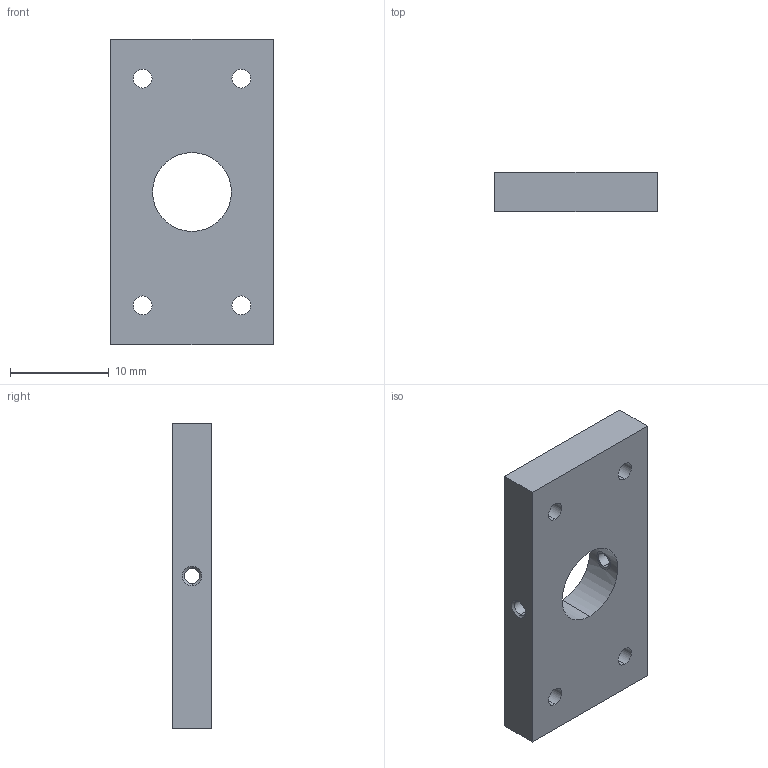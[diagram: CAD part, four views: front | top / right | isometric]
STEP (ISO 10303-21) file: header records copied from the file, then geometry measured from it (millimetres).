
FILE_DESCRIPTION(/* description */ ('(C) Elphel, Inc. 2013. Licensed under CERN OHL v.1.1 or later, see http://ohwr.org/cernohl'),/* implementation_level */ '2;1');
FILE_NAME(/* name */ '0353-23-11.stp',/* time_stamp */ '2013-04-05T16:13:30-06:00',/* author */ (''),/* organization */ ('Elphel, Inc'),/* preprocessor_version */ 'ST-DEVELOPER v14',/* originating_system */ 'VariCAD 2013-1.03; kernel version (20121105)',/* authorisation */ '');
FILE_SCHEMA (('CONFIG_CONTROL_DESIGN'));
Length unit declared in the file: millimetre
Products named in the file (2): 0353-23-11
Assembly tree (1 placements, depth 2):
  0353-23-11
    0353-23-11
Bounding box: 16.5 x 4 x 31 mm (x, y, z)
Volume: 1783 mm3; surface area: 1509.8 mm2
Topology: 1 solids, 1 shells, 25 faces, 68 edges, 48 vertices
Faces by surface type: cylinder 16, plane 7, cone 2
Entity records: 1034 total; most frequent: CARTESIAN_POINT 261, DIRECTION 142, ORIENTED_EDGE 136, EDGE_CURVE 68, AXIS2_PLACEMENT_3D 57, VERTEX_POINT 48, EDGE_LOOP 42, LINE 28
